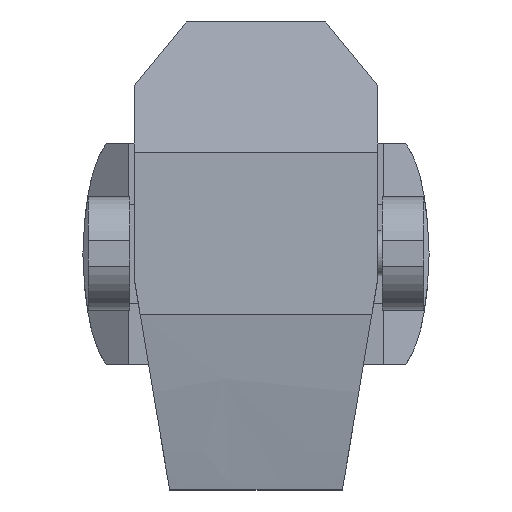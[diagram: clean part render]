
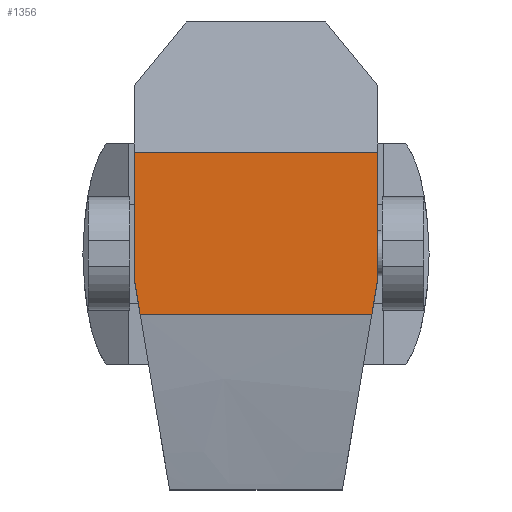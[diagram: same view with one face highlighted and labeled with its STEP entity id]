
A CAD part, top view. The second image highlights one B-rep face of the part: STEP entity #1356.
In plain terms, the highlighted planar face has unit normal (0, 0, 1) as drawn and (0, 1, 0) by its records, which use the part's own axes.
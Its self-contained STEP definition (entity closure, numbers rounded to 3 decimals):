
#112=PLANE('',#1564);
#186=FACE_OUTER_BOUND('',#268,.T.);
#268=EDGE_LOOP('',(#1245,#1246,#1247,#1248,#1249,#1250));
#385=LINE('',#2509,#526);
#392=LINE('',#2670,#533);
#407=LINE('',#2734,#548);
#408=LINE('',#2737,#549);
#410=LINE('',#2814,#551);
#411=LINE('',#2815,#552);
#526=VECTOR('',#1874,10.);
#533=VECTOR('',#1883,10.);
#548=VECTOR('',#1906,10.);
#549=VECTOR('',#1909,10.);
#551=VECTOR('',#1913,10.);
#552=VECTOR('',#1914,10.);
#690=VERTEX_POINT('',#2506);
#691=VERTEX_POINT('',#2508);
#698=VERTEX_POINT('',#2596);
#707=VERTEX_POINT('',#2728);
#709=VERTEX_POINT('',#2732);
#710=VERTEX_POINT('',#2736);
#865=EDGE_CURVE('',#690,#691,#385,.T.);
#874=EDGE_CURVE('',#698,#690,#392,.T.);
#890=EDGE_CURVE('',#707,#709,#407,.T.);
#891=EDGE_CURVE('',#710,#707,#408,.T.);
#894=EDGE_CURVE('',#691,#709,#410,.T.);
#895=EDGE_CURVE('',#698,#710,#411,.T.);
#1245=ORIENTED_EDGE('',*,*,#891,.T.);
#1246=ORIENTED_EDGE('',*,*,#890,.T.);
#1247=ORIENTED_EDGE('',*,*,#894,.F.);
#1248=ORIENTED_EDGE('',*,*,#865,.F.);
#1249=ORIENTED_EDGE('',*,*,#874,.F.);
#1250=ORIENTED_EDGE('',*,*,#895,.T.);
#1356=ADVANCED_FACE('',(#186),#112,.T.);
#1564=AXIS2_PLACEMENT_3D('',#2813,#1911,#1912);
#1874=DIRECTION('',(0.,0.,-1.));
#1883=DIRECTION('',(-0.165,0.,-0.986));
#1906=DIRECTION('',(0.,0.,-1.));
#1909=DIRECTION('',(0.165,0.,-0.986));
#1911=DIRECTION('center_axis',(0.,1.,0.));
#1912=DIRECTION('ref_axis',(0.,0.,1.));
#1913=DIRECTION('',(1.,0.,0.));
#1914=DIRECTION('',(1.,0.,0.));
#2506=CARTESIAN_POINT('',(-135.845,131.729,491.21));
#2508=CARTESIAN_POINT('',(-135.845,131.729,349.972));
#2509=CARTESIAN_POINT('',(-135.845,131.729,312.826));
#2596=CARTESIAN_POINT('',(-129.244,131.729,530.636));
#2670=CARTESIAN_POINT('',(-142.344,131.729,452.395));
#2728=CARTESIAN_POINT('',(135.845,131.729,491.21));
#2732=CARTESIAN_POINT('',(135.845,131.729,349.972));
#2734=CARTESIAN_POINT('',(135.845,131.729,312.826));
#2736=CARTESIAN_POINT('',(129.244,131.729,530.636));
#2737=CARTESIAN_POINT('',(142.344,131.729,452.395));
#2813=CARTESIAN_POINT('Origin',(0.,131.729,349.972));
#2814=CARTESIAN_POINT('',(0.,131.729,349.972));
#2815=CARTESIAN_POINT('',(0.,131.729,530.636));
